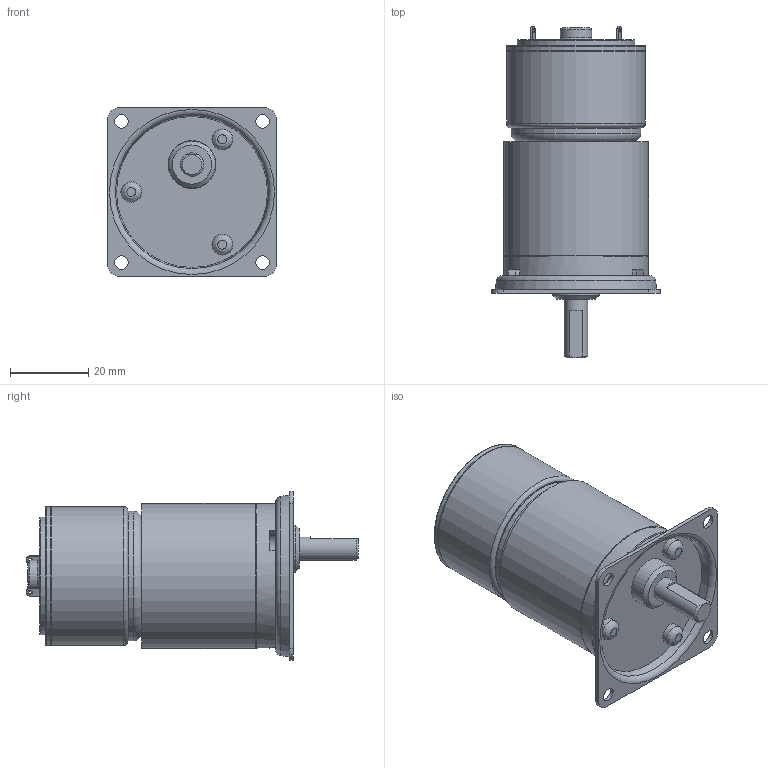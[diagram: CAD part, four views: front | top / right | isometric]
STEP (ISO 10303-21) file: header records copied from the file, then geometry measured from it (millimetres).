
FILE_DESCRIPTION((''),'2;1');
FILE_NAME('C:\Documents and Settings\SSEGAWA\デスクトップ\TP-3526E-PKS-6.STP','2013-07-09T16:57:44',('SSEGAWA'),(''),'Autodesk Inventor 2010','Autodesk Inventor 2010','');
FILE_SCHEMA(('CONFIG_CONTROL_DESIGN'));
Length unit declared in the file: millimetre
Products named in the file (5): tp_3526e_pks_5; pks_6; ks_6; □43; tp_3526e
Assembly tree (4 placements, depth 3):
  tp_3526e_pks_5
    pks_6
      ks_6
      □43
    tp_3526e
Bounding box: 43 x 84.7 x 43 mm (x, y, z)
Volume: 64458.5 mm3; surface area: 16479.6 mm2
Topology: 4 solids, 4 shells, 121 faces, 271 edges, 178 vertices
Faces by surface type: plane 49, cylinder 31, bspline 29, torus 7, cone 5
Full cylindrical faces by diameter (mm): 1.1 x1, 2 x1, 2.4 x1, 5 x1, 5.3 x3, 6 x1, 8 x1, 10 x1, 12 x1, 12.2 x1, 30 x1, 33 x1, 35 x1, 35.4 x2, 36.6 x1, 37 x2
Entity records: 3550 total; most frequent: CARTESIAN_POINT 1122, DIRECTION 499, ORIENTED_EDGE 366, AXIS2_PLACEMENT_3D 217, EDGE_LOOP 215, EDGE_CURVE 183, VERTEX_POINT 150, FACE_OUTER_BOUND 121
